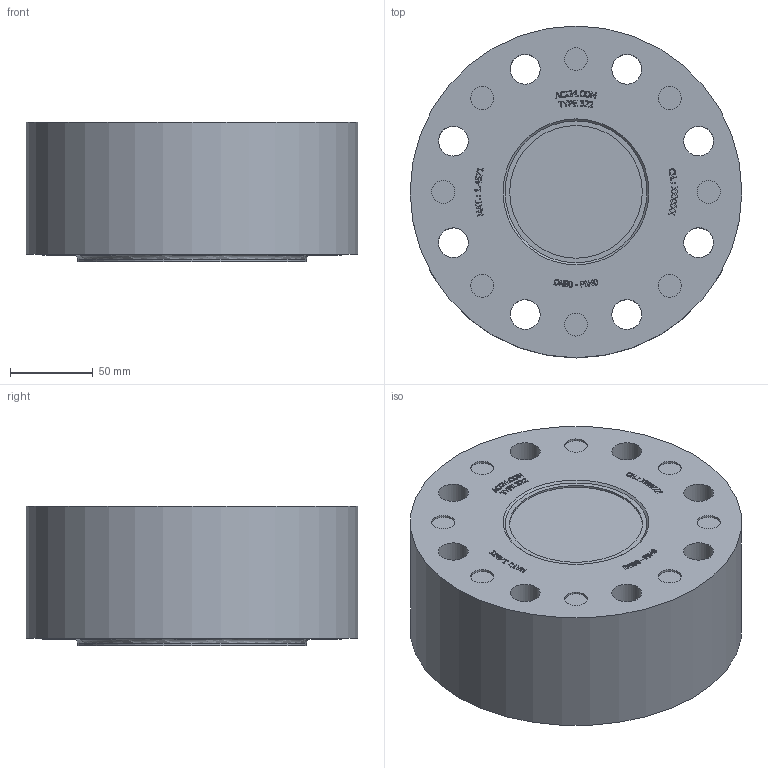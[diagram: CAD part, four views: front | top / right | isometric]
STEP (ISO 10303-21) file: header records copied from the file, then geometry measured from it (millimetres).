
FILE_DESCRIPTION(/* description */ ('ACI TYPE 322 DN 80 PN40'),/* implementation_level */ '2;1');
FILE_NAME(/* name */ 'W:\Konstruktion_ACI\322\ACI-322-80-40.stp',/* time_stamp */ '2020-04-21T10:46:55+02:00',/* author */ ('Götz'),/* organization */ ('ACI Industriearmaturen GmbH info@aci24.com www.aci24.com'),/* preprocessor_version */ 'ST-DEVELOPER v16.1',/* originating_system */ 'Autodesk Inventor 2016',/* authorisation */ 'ACI Industriearmaturen GmbH info@aci24.com www.aci24.com');
FILE_SCHEMA (('CONFIG_CONTROL_DESIGN'));
Length unit declared in the file: centimetre
Products named in the file (1): ACI-322-80-40
Bounding box: 200 x 200 x 84 mm (x, y, z)
Volume: 2367135.6 mm3; surface area: 148468.4 mm2
Topology: 1 solids, 1 shells, 741 faces, 2007 edges, 1342 vertices
Faces by surface type: plane 514, bspline 197, cylinder 20, torus 9, cone 1
Full cylindrical faces by diameter (mm): 13.835 x8, 18 x8, 80 x2, 138 x1, 200 x1
Entity records: 24969 total; most frequent: CARTESIAN_POINT 6992, ORIENTED_EDGE 3934, DIRECTION 2725, EDGE_CURVE 1967, LINE 1467, VECTOR 1467, VERTEX_POINT 1324, EDGE_LOOP 853
